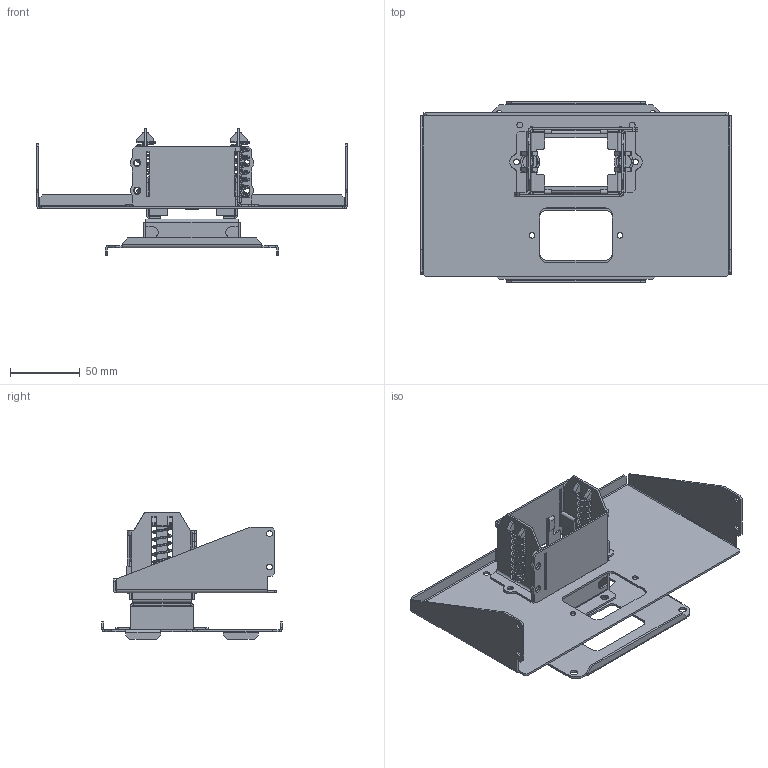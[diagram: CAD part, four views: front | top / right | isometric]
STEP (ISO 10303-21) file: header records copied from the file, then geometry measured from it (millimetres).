
FILE_DESCRIPTION(('CAx-IF Rec.Pracs.---Model Styling and Organization---1.2---2011-12-15','CAx-IF Rec.Pracs.---Geometric and Assembly Validation Properties---4.1---2014-06-16','CAx-IF Rec.Pracs.---PMI Polyline Presentation---2.0---2013-05-24'),'2;1');
FILE_NAME('R5M2W3M2BR35.stp','2021-05-05T12:14:55+03:00',(''),(''),'STEP Interface 4.4 by CT CoreTechnologie','3D_Evolution4.4 by CT CoreTechnologie','');
FILE_SCHEMA(('AUTOMOTIVE_DESIGN { 1 0 10303 214 1 1 1 1 }'));
Length unit declared in the file: millimetre
Products named in the file (8): R5M2W3M2BR35; RB.1571.00.00.0_In prestressed condition - 40 mm; RB.1621.00.00.0_-00; RB.1254.00.00.0_-02; RB.1569.00.00.0_-00; RB.1570.00.00.0; RB.1567.00.00.0_-01; RB.1353.00.00.0_-06
Assembly tree (13 placements, depth 2):
  R5M2W3M2BR35
    RB.1571.00.00.0_In prestressed condition - 40 mm  x2
    RB.1621.00.00.0_-00  x4
    RB.1254.00.00.0_-02
    RB.1569.00.00.0_-00  x2
    RB.1570.00.00.0  x2
    RB.1567.00.00.0_-01
    RB.1353.00.00.0_-06
Bounding box: 222.5 x 129.2 x 90.8 mm (x, y, z)
Surface area: 136197.8 mm2 (no closed solid volume)
Topology: 0 solids, 21 shells, 681 faces, 1826 edges, 1187 vertices
Faces by surface type: plane 476, cylinder 185, bspline 20
Entity records: 16115 total; most frequent: CARTESIAN_POINT 3924, ORIENTED_EDGE 2448, DIRECTION 2412, EDGE_CURVE 1224, VECTOR 934, LINE 934, VERTEX_POINT 791, AXIS2_PLACEMENT_3D 739
